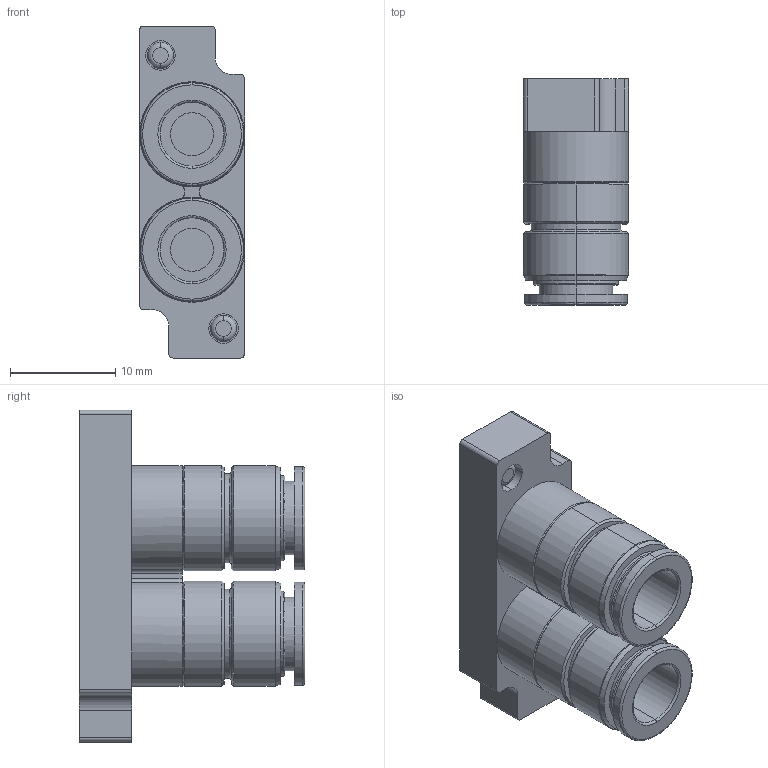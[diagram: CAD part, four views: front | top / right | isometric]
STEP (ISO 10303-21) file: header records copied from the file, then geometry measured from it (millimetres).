
FILE_DESCRIPTION( (''), '2;1');
FILE_NAME ('CVICAD02.17696.F10_VJ_6711.stp','2020-09-01T14:14:55',(''),(''),'spGate 12.6.6','','');
FILE_SCHEMA (('AUTOMOTIVE_DESIGN'));
Length unit declared in the file: millimetre
Bounding box: 10 x 21.5 x 31.6 mm (x, y, z)
Volume: 3383.3 mm3; surface area: 2632.3 mm2
Topology: 1 solids, 1 shells, 130 faces, 282 edges, 172 vertices
Faces by surface type: cylinder 50, bspline 44, plane 36
Entity records: 6343 total; most frequent: CARTESIAN_POINT 1320, ORIENTED_EDGE 564, DIRECTION 528, COLOUR_RGB 413, PRESENTATION_STYLE_ASSIGNMENT 413, STYLED_ITEM 413, EDGE_CURVE 282, DRAUGHTING_PRE_DEFINED_CURVE_FONT 282
